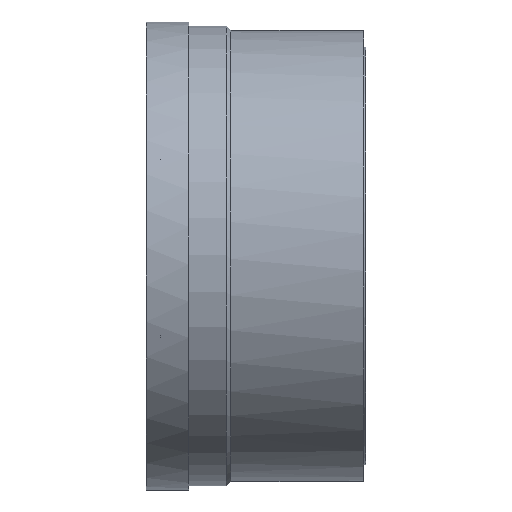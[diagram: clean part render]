
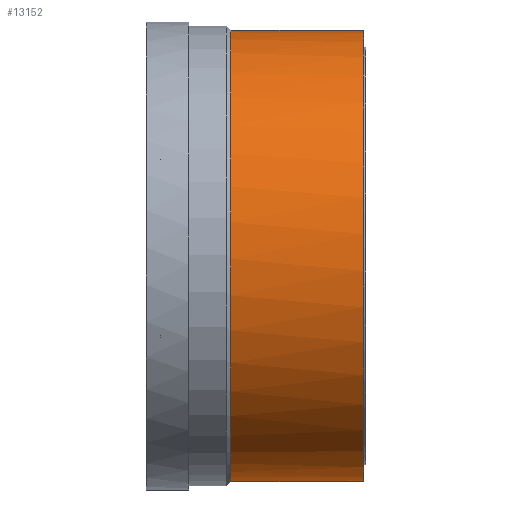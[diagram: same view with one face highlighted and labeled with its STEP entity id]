
A CAD part, left-side view. The second image highlights one B-rep face of the part: STEP entity #13152.
In plain terms, the highlighted free-form (B-spline) face has degree [1, 3] with [2, 4] control points.
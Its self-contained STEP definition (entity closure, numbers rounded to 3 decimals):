
#962 = CARTESIAN_POINT ( 'NONE',  ( -7., -34.5, 53.156 ) ) ;
#1059 = CARTESIAN_POINT ( 'NONE',  ( -51.788, -34.5, -13.874 ) ) ;
#1326 = CARTESIAN_POINT ( 'NONE',  ( -3.504, -34.5, 53.5 ) ) ;
#1695 = CARTESIAN_POINT ( 'NONE',  ( 0., -34.5, 53.5 ) ) ;
#1771 = EDGE_LOOP ( 'NONE', ( #7969, #12129, #2044, #5363 ) ) ;
#1872 = B_SPLINE_CURVE_WITH_KNOTS ( 'NONE', 1,
 ( #17188, #5512 ),
 .UNSPECIFIED., .F., .F.,
 ( 2, 2 ),
 ( -1., 0. ),
 .UNSPECIFIED. ) ;
#2016 = CARTESIAN_POINT ( 'NONE',  ( -107., -3., -53.5 ) ) ;
#2044 = ORIENTED_EDGE ( 'NONE', *, *, #11363, .T. ) ;
#2071 =( BOUNDED_CURVE ( )  B_SPLINE_CURVE ( 3, ( #3247, #4659, #2016, #17009 ),
 .UNSPECIFIED., .F., .F. ) 
 B_SPLINE_CURVE_WITH_KNOTS ( ( 4, 4 ),
 ( -3.142, 0. ),
 .UNSPECIFIED. ) 
 CURVE ( )  GEOMETRIC_REPRESENTATION_ITEM ( )  RATIONAL_B_SPLINE_CURVE ( ( 1., 0.333, 0.333, 1. ) ) 
 REPRESENTATION_ITEM ( '' )  );
#2383 = CARTESIAN_POINT ( 'NONE',  ( -23.711, -34.5, 48.086 ) ) ;
#2778 = EDGE_CURVE ( 'NONE', #9502, #7445, #1872, .T. ) ;
#3247 = CARTESIAN_POINT ( 'NONE',  ( 0., -3., 53.5 ) ) ;
#3602 = CARTESIAN_POINT ( 'NONE',  ( -48.086, -34.5, 23.711 ) ) ;
#3873 = CARTESIAN_POINT ( 'NONE',  ( -23.711, -34.5, -48.086 ) ) ;
#3966 = CARTESIAN_POINT ( 'NONE',  ( 0., -34.5, -53.5 ) ) ;
#4156 = CARTESIAN_POINT ( 'NONE',  ( 0., -3., -53.5 ) ) ;
#4418 = CARTESIAN_POINT ( 'NONE',  ( -107., -34.5, 53.5 ) ) ;
#4659 = CARTESIAN_POINT ( 'NONE',  ( -107., -3., 53.5 ) ) ;
#4930 = CARTESIAN_POINT ( 'NONE',  ( -42.537, -34.5, 32.637 ) ) ;
#5021 = CARTESIAN_POINT ( 'NONE',  ( -3.504, -34.5, -53.5 ) ) ;
#5291 = CARTESIAN_POINT ( 'NONE',  ( -13.874, -34.5, -51.788 ) ) ;
#5363 = ORIENTED_EDGE ( 'NONE', *, *, #2778, .F. ) ;
#5512 = CARTESIAN_POINT ( 'NONE',  ( 0., -3., -53.5 ) ) ;
#5746 = CARTESIAN_POINT ( 'NONE',  ( 0., -3., 53.5 ) ) ;
#5829 = CARTESIAN_POINT ( 'NONE',  ( -107., -3., 53.5 ) ) ;
#6350 = CARTESIAN_POINT ( 'NONE',  ( -50.769, -34.5, -17.236 ) ) ;
#6402 = CARTESIAN_POINT ( 'NONE',  ( 0., -34.5, -53.5 ) ) ;
#6624 = CARTESIAN_POINT ( 'NONE',  ( -26.809, -34.5, 46.431 ) ) ;
#6724 = EDGE_CURVE ( 'NONE', #8459, #9502, #14087, .T. ) ;
#7445 = VERTEX_POINT ( 'NONE', #4156 ) ;
#7452 = CARTESIAN_POINT ( 'NONE',  ( 0., -34.5, 53.5 ) ) ;
#7770 = CARTESIAN_POINT ( 'NONE',  ( -35.352, -34.5, 40.308 ) ) ;
#7865 = CARTESIAN_POINT ( 'NONE',  ( -51.788, -34.5, 13.874 ) ) ;
#7969 = ORIENTED_EDGE ( 'NONE', *, *, #6724, .F. ) ;
#8459 = VERTEX_POINT ( 'NONE', #12110 ) ;
#8671 = CARTESIAN_POINT ( 'NONE',  ( 0., -34.5, -53.5 ) ) ;
#9230 = VERTEX_POINT ( 'NONE', #13073 ) ;
#9286 = CARTESIAN_POINT ( 'NONE',  ( -53.156, -34.5, 7. ) ) ;
#9502 = VERTEX_POINT ( 'NONE', #6402 ) ;
#10302 = CARTESIAN_POINT ( 'NONE',  ( 0., -3., 53.5 ) ) ;
#10348 = CARTESIAN_POINT ( 'NONE',  ( -42.537, -34.5, -32.637 ) ) ;
#10535 = CARTESIAN_POINT ( 'NONE',  ( -32.637, -34.5, -42.537 ) ) ;
#11363 = EDGE_CURVE ( 'NONE', #9230, #7445, #2071, .T. ) ;
#11653 = B_SPLINE_CURVE_WITH_KNOTS ( 'NONE', 1,
 ( #10302, #7452 ),
 .UNSPECIFIED., .F., .F.,
 ( 2, 2 ),
 ( -1., 0. ),
 .UNSPECIFIED. ) ;
#11675 = CARTESIAN_POINT ( 'NONE',  ( -17.236, -34.5, 50.769 ) ) ;
#11765 = CARTESIAN_POINT ( 'NONE',  ( -46.431, -34.5, -26.809 ) ) ;
#11858 = CARTESIAN_POINT ( 'NONE',  ( -53.5, -34.5, 3.504 ) ) ;
#11949 = CARTESIAN_POINT ( 'NONE',  ( -50.769, -34.5, 17.236 ) ) ;
#12042 = CARTESIAN_POINT ( 'NONE',  ( -53.5, -34.5, -3.504 ) ) ;
#12064 =( BOUNDED_SURFACE ( )  B_SPLINE_SURFACE ( 1, 3, ( 
 ( #8671, #13725, #4418, #1695 ),
 ( #16502, #12660, #5829, #5746 ) ),
 .UNSPECIFIED., .F., .F., .F. ) 
 B_SPLINE_SURFACE_WITH_KNOTS ( ( 2, 2 ),
 ( 4, 4 ),
 ( 0., 1. ),
 ( 0., 1. ),
 .UNSPECIFIED. ) 
 GEOMETRIC_REPRESENTATION_ITEM ( )  RATIONAL_B_SPLINE_SURFACE ( (
 ( 1., 0.333, 0.333, 1.),
 ( 1., 0.333, 0.333, 1.) ) ) 
 REPRESENTATION_ITEM ( '' )  SURFACE ( )  );
#12110 = CARTESIAN_POINT ( 'NONE',  ( 0., -34.5, 53.5 ) ) ;
#12129 = ORIENTED_EDGE ( 'NONE', *, *, #14203, .F. ) ;
#12660 = CARTESIAN_POINT ( 'NONE',  ( -107., -3., -53.5 ) ) ;
#13073 = CARTESIAN_POINT ( 'NONE',  ( 0., -3., 53.5 ) ) ;
#13088 = CARTESIAN_POINT ( 'NONE',  ( 0., -34.5, 53.5 ) ) ;
#13152 = ADVANCED_FACE ( 'NONE', ( #13901 ), #12064, .F. ) ;
#13180 = CARTESIAN_POINT ( 'NONE',  ( -46.431, -34.5, 26.809 ) ) ;
#13269 = CARTESIAN_POINT ( 'NONE',  ( -48.086, -34.5, -23.711 ) ) ;
#13356 = CARTESIAN_POINT ( 'NONE',  ( -32.637, -34.5, 42.537 ) ) ;
#13725 = CARTESIAN_POINT ( 'NONE',  ( -107., -34.5, -53.5 ) ) ;
#13901 = FACE_OUTER_BOUND ( 'NONE', #1771, .T. ) ;
#14087 = B_SPLINE_CURVE_WITH_KNOTS ( 'NONE', 3,
 ( #13088, #1326, #962, #14417, #11675, #2383, #6624, #13356, #7770, #17105, #4930, #13180, #3602, #11949, #7865, #9286, #11858, #12042, #17287, #1059, #6350, #13269, #11765, #10348, #17194, #16041, #10535, #17475, #3873, #14693, #5291, #16131, #5021, #3966 ),
 .UNSPECIFIED., .F., .F.,
 ( 4, 2, 2, 2, 2, 2, 2, 2, 2, 2, 2, 2, 2, 2, 2, 2, 4 ),
 ( 0., 0.196, 0.393, 0.589, 0.785, 0.982, 1.178, 1.374, 1.571, 1.767, 1.963, 2.16, 2.356, 2.553, 2.749, 2.945, 3.142 ),
 .UNSPECIFIED. ) ;
#14203 = EDGE_CURVE ( 'NONE', #9230, #8459, #11653, .T. ) ;
#14417 = CARTESIAN_POINT ( 'NONE',  ( -13.874, -34.5, 51.788 ) ) ;
#14693 = CARTESIAN_POINT ( 'NONE',  ( -17.236, -34.5, -50.769 ) ) ;
#16041 = CARTESIAN_POINT ( 'NONE',  ( -35.352, -34.5, -40.308 ) ) ;
#16131 = CARTESIAN_POINT ( 'NONE',  ( -7., -34.5, -53.156 ) ) ;
#16502 = CARTESIAN_POINT ( 'NONE',  ( 0., -3., -53.5 ) ) ;
#17009 = CARTESIAN_POINT ( 'NONE',  ( 0., -3., -53.5 ) ) ;
#17105 = CARTESIAN_POINT ( 'NONE',  ( -40.308, -34.5, 35.352 ) ) ;
#17188 = CARTESIAN_POINT ( 'NONE',  ( 0., -34.5, -53.5 ) ) ;
#17194 = CARTESIAN_POINT ( 'NONE',  ( -40.308, -34.5, -35.352 ) ) ;
#17287 = CARTESIAN_POINT ( 'NONE',  ( -53.156, -34.5, -7. ) ) ;
#17475 = CARTESIAN_POINT ( 'NONE',  ( -26.809, -34.5, -46.431 ) ) ;
